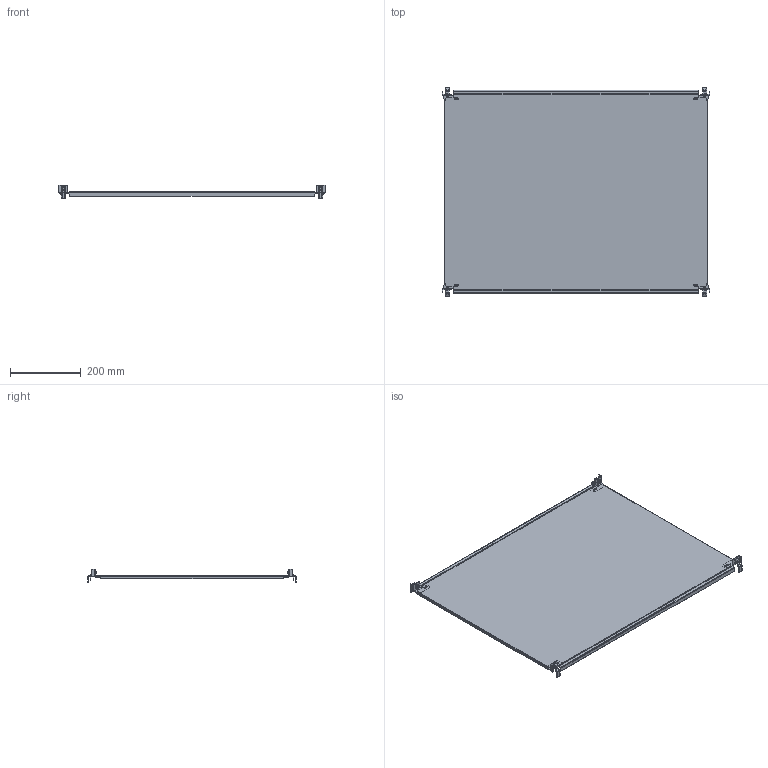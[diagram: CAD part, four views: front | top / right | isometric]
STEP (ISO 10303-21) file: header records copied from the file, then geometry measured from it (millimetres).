
FILE_DESCRIPTION(('CAx-IF Rec.Pracs.---Model Styling and Organization---1.2---2011-12-15','CAx-IF Rec.Pracs.---Geometric and Assembly Validation Properties---4.1---2014-06-16','CAx-IF Rec.Pracs.---PMI Polyline Presentation---2.0---2013-05-24'),'2;1');
FILE_NAME('R5CPB860.stp','2021-05-06T03:27:37+03:00',(''),(''),'STEP Interface 4.4 by CT CoreTechnologie','3D_Evolution4.4 by CT CoreTechnologie','');
FILE_SCHEMA(('AUTOMOTIVE_DESIGN { 1 0 10303 214 1 1 1 1 }'));
Length unit declared in the file: millimetre
Products named in the file (6): R5CPB860; AC00C485; M6x16-DIN 7985 ISR_thread; RB.0726.00.00.0_-34; RB.0546.00.00.0_-01; RB.0546.00.00.0_-00
Assembly tree (13 placements, depth 2):
  R5CPB860
    AC00C485  x4
    M6x16-DIN 7985 ISR_thread  x4
    RB.0726.00.00.0_-34
    RB.0546.00.00.0_-01  x2
    RB.0546.00.00.0_-00  x2
Bounding box: 755 x 587 x 39.05 mm (x, y, z)
Surface area: 907943.7 mm2 (no closed solid volume)
Topology: 0 solids, 21 shells, 574 faces, 1456 edges, 912 vertices
Faces by surface type: plane 322, cylinder 196, bspline 56
Entity records: 8609 total; most frequent: CARTESIAN_POINT 1869, ORIENTED_EDGE 1330, DIRECTION 1288, EDGE_CURVE 665, VECTOR 518, LINE 518, VERTEX_POINT 430, AXIS2_PLACEMENT_3D 385
